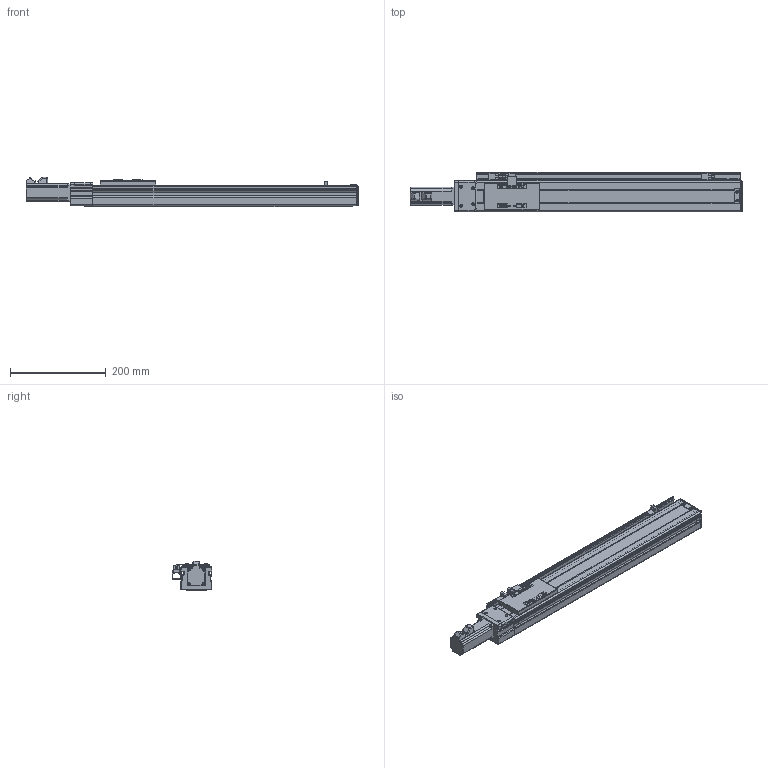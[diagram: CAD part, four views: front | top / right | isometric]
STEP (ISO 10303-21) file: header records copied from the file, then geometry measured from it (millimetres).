
FILE_DESCRIPTION (( 'STEP AP203' ), '1' );
FILE_NAME ('VT6-L10-C-S400-BC-P10-C4.STEP', '2015-10-26T05:57:54', ( '' ), ( '' ), 'SwSTEP 2.0', 'SolidWorks 2013', '' );
FILE_SCHEMA (( 'CONFIG_CONTROL_DESIGN' ));
Length unit declared in the file: millimetre
Products named in the file (15): ET6-BC耜啣_400; ET6-BC癹弇羲壽羞_400; T6-賑雄殤; T6-裔啣; T6-揤輸; T6-覜茼え; T6-綴傷裔; EE-XS674; ET6-BC絳寢_俴最400; ET6-BC滅鳥湍_400; T6-BCヶ傷裔揤啣; T6-BCヶ傷裔; 侂狟100W MSMD012G1U; ET6-BC佪裝_400; VT6-L10-C-S400-BC-P10-C4
Assembly tree (17 placements, depth 2):
  VT6-L10-C-S400-BC-P10-C4
    ET6-BC耜啣_400  x2
    ET6-BC癹弇羲壽羞_400
    T6-賑雄殤
    T6-裔啣
    T6-揤輸
    T6-覜茼え
    T6-綴傷裔
    EE-XS674  x3
    ET6-BC絳寢_俴最400
    ET6-BC滅鳥湍_400
    T6-BCヶ傷裔揤啣
    T6-BCヶ傷裔
    侂狟100W MSMD012G1U
    ET6-BC佪裝_400
Bounding box: 694 x 83 x 61 mm (x, y, z)
Volume: 808791.2 mm3; surface area: 448416.7 mm2
Topology: 17 solids, 17 shells, 884 faces, 2337 edges, 1476 vertices
Faces by surface type: cylinder 404, plane 378, cone 56, torus 28, sphere 18
Entity records: 27106 total; most frequent: CARTESIAN_POINT 4705, DIRECTION 4521, ORIENTED_EDGE 4200, EDGE_CURVE 2100, AXIS2_PLACEMENT_3D 1644, VERTEX_POINT 1336, VECTOR 1233, LINE 1233
